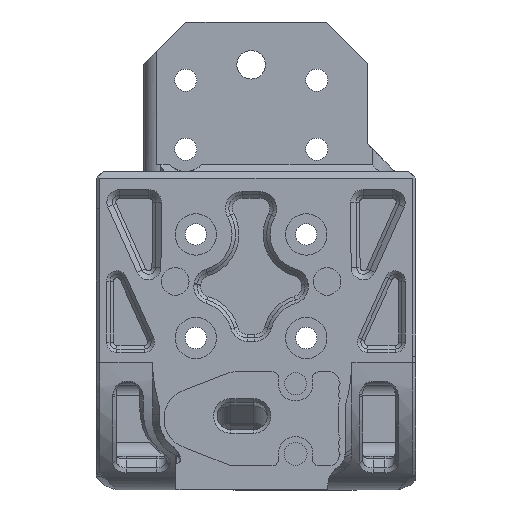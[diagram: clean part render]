
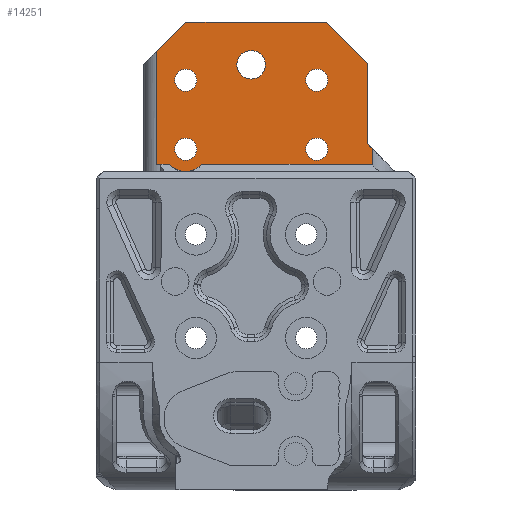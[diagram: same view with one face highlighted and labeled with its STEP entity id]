
A CAD part, front view. The second image highlights one B-rep face of the part: STEP entity #14251.
In plain terms, the highlighted planar face has unit normal (0, -1, 0).
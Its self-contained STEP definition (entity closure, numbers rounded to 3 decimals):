
#41=FACE_BOUND('',#2235,.T.);
#42=FACE_BOUND('',#2236,.T.);
#43=FACE_BOUND('',#2237,.T.);
#44=FACE_BOUND('',#2238,.T.);
#45=FACE_BOUND('',#2239,.T.);
#742=CIRCLE('',#14962,2.075);
#744=CIRCLE('',#14965,1.6);
#746=CIRCLE('',#14968,1.6);
#748=CIRCLE('',#14971,1.6);
#750=CIRCLE('',#14974,1.6);
#752=CIRCLE('',#14984,3.25);
#1416=FACE_OUTER_BOUND('',#2234,.T.);
#2234=EDGE_LOOP('',(#10199,#10200,#10201,#10202,#10203,#10204,#10205,#10206,
#10207,#10208));
#2235=EDGE_LOOP('',(#10209));
#2236=EDGE_LOOP('',(#10210));
#2237=EDGE_LOOP('',(#10211));
#2238=EDGE_LOOP('',(#10212));
#2239=EDGE_LOOP('',(#10213));
#3034=LINE('',#20569,#4466);
#3038=LINE('',#20579,#4470);
#3041=LINE('',#20585,#4473);
#3044=LINE('',#20603,#4476);
#3338=LINE('',#22027,#4770);
#3345=LINE('',#22043,#4777);
#3348=LINE('',#22049,#4780);
#3351=LINE('',#22056,#4783);
#3352=LINE('',#22057,#4784);
#4466=VECTOR('',#16412,10.);
#4470=VECTOR('',#16420,10.);
#4473=VECTOR('',#16425,10.);
#4476=VECTOR('',#16444,10.);
#4770=VECTOR('',#17088,10.);
#4777=VECTOR('',#17105,10.);
#4780=VECTOR('',#17110,10.);
#4783=VECTOR('',#17117,10.);
#4784=VECTOR('',#17118,10.);
#5917=VERTEX_POINT('',#20537);
#5919=VERTEX_POINT('',#20543);
#5921=VERTEX_POINT('',#20549);
#5923=VERTEX_POINT('',#20555);
#5925=VERTEX_POINT('',#20561);
#5927=VERTEX_POINT('',#20567);
#5928=VERTEX_POINT('',#20568);
#5932=VERTEX_POINT('',#20578);
#5934=VERTEX_POINT('',#20584);
#5936=VERTEX_POINT('',#20589);
#5938=VERTEX_POINT('',#20593);
#5941=VERTEX_POINT('',#20601);
#6234=VERTEX_POINT('',#22041);
#6236=VERTEX_POINT('',#22046);
#6238=VERTEX_POINT('',#22055);
#7317=EDGE_CURVE('',#5917,#5917,#742,.T.);
#7320=EDGE_CURVE('',#5919,#5919,#744,.T.);
#7323=EDGE_CURVE('',#5921,#5921,#746,.T.);
#7326=EDGE_CURVE('',#5923,#5923,#748,.T.);
#7329=EDGE_CURVE('',#5925,#5925,#750,.T.);
#7332=EDGE_CURVE('',#5927,#5928,#3034,.T.);
#7337=EDGE_CURVE('',#5932,#5927,#3038,.T.);
#7340=EDGE_CURVE('',#5934,#5932,#3041,.T.);
#7345=EDGE_CURVE('',#5936,#5938,#752,.F.);
#7349=EDGE_CURVE('',#5928,#5941,#3044,.T.);
#7756=EDGE_CURVE('',#5936,#5941,#3338,.T.);
#7764=EDGE_CURVE('',#6234,#5938,#3345,.T.);
#7767=EDGE_CURVE('',#6236,#5934,#3348,.T.);
#7770=EDGE_CURVE('',#6234,#6238,#3351,.T.);
#7771=EDGE_CURVE('',#6238,#6236,#3352,.T.);
#10199=ORIENTED_EDGE('',*,*,#7349,.T.);
#10200=ORIENTED_EDGE('',*,*,#7756,.F.);
#10201=ORIENTED_EDGE('',*,*,#7345,.T.);
#10202=ORIENTED_EDGE('',*,*,#7764,.F.);
#10203=ORIENTED_EDGE('',*,*,#7770,.T.);
#10204=ORIENTED_EDGE('',*,*,#7771,.T.);
#10205=ORIENTED_EDGE('',*,*,#7767,.T.);
#10206=ORIENTED_EDGE('',*,*,#7340,.T.);
#10207=ORIENTED_EDGE('',*,*,#7337,.T.);
#10208=ORIENTED_EDGE('',*,*,#7332,.T.);
#10209=ORIENTED_EDGE('',*,*,#7329,.T.);
#10210=ORIENTED_EDGE('',*,*,#7326,.T.);
#10211=ORIENTED_EDGE('',*,*,#7323,.T.);
#10212=ORIENTED_EDGE('',*,*,#7320,.T.);
#10213=ORIENTED_EDGE('',*,*,#7317,.T.);
#13771=PLANE('',#15170);
#14251=ADVANCED_FACE('',(#1416,#41,#42,#43,#44,#45),#13771,.T.);
#14962=AXIS2_PLACEMENT_3D('',#20538,#16377,#16378);
#14965=AXIS2_PLACEMENT_3D('',#20544,#16384,#16385);
#14968=AXIS2_PLACEMENT_3D('',#20550,#16391,#16392);
#14971=AXIS2_PLACEMENT_3D('',#20556,#16398,#16399);
#14974=AXIS2_PLACEMENT_3D('',#20562,#16405,#16406);
#14984=AXIS2_PLACEMENT_3D('',#20595,#16435,#16436);
#15170=AXIS2_PLACEMENT_3D('',#22054,#17115,#17116);
#16377=DIRECTION('center_axis',(0.,1.,0.));
#16378=DIRECTION('ref_axis',(-1.,0.,0.));
#16384=DIRECTION('center_axis',(0.,1.,0.));
#16385=DIRECTION('ref_axis',(-1.,0.,0.));
#16391=DIRECTION('center_axis',(0.,1.,0.));
#16392=DIRECTION('ref_axis',(-1.,0.,0.));
#16398=DIRECTION('center_axis',(0.,1.,0.));
#16399=DIRECTION('ref_axis',(-1.,0.,0.));
#16405=DIRECTION('center_axis',(0.,1.,0.));
#16406=DIRECTION('ref_axis',(-1.,0.,0.));
#16412=DIRECTION('',(-0.707,0.,-0.707));
#16420=DIRECTION('',(-1.,0.,0.));
#16425=DIRECTION('',(-0.707,0.,0.707));
#16435=DIRECTION('center_axis',(0.,1.,0.));
#16436=DIRECTION('ref_axis',(1.,0.,0.));
#16444=DIRECTION('',(0.,0.,-1.));
#17088=DIRECTION('',(-1.,0.,0.));
#17105=DIRECTION('',(-1.,0.,0.));
#17110=DIRECTION('',(0.,0.,1.));
#17115=DIRECTION('center_axis',(0.,-1.,0.));
#17116=DIRECTION('ref_axis',(1.,0.,0.));
#17117=DIRECTION('',(0.,0.,1.));
#17118=DIRECTION('',(-0.707,0.,0.707));
#20537=CARTESIAN_POINT('',(2.075,58.75,-8.05));
#20538=CARTESIAN_POINT('Origin',(0.,58.75,-8.05));
#20543=CARTESIAN_POINT('',(-7.9,58.75,-10.275));
#20544=CARTESIAN_POINT('Origin',(-9.5,58.75,-10.275));
#20549=CARTESIAN_POINT('',(-7.9,58.75,-20.275));
#20550=CARTESIAN_POINT('Origin',(-9.5,58.75,-20.275));
#20555=CARTESIAN_POINT('',(11.1,58.75,-10.275));
#20556=CARTESIAN_POINT('Origin',(9.5,58.75,-10.275));
#20561=CARTESIAN_POINT('',(11.1,58.75,-20.275));
#20562=CARTESIAN_POINT('Origin',(9.5,58.75,-20.275));
#20567=CARTESIAN_POINT('',(-9.445,58.75,-1.85));
#20568=CARTESIAN_POINT('',(-13.676,58.75,-6.081));
#20569=CARTESIAN_POINT('',(-19.308,58.75,-11.713));
#20578=CARTESIAN_POINT('',(10.85,58.75,-1.85));
#20579=CARTESIAN_POINT('',(-7.371,58.75,-1.85));
#20584=CARTESIAN_POINT('',(16.85,58.75,-7.85));
#20585=CARTESIAN_POINT('',(12.639,58.75,-3.639));
#20589=CARTESIAN_POINT('',(-11.869,58.75,-22.5));
#20593=CARTESIAN_POINT('',(-7.131,58.75,-22.5));
#20595=CARTESIAN_POINT('Origin',(-9.5,58.75,-20.275));
#20601=CARTESIAN_POINT('',(-13.676,58.75,-22.5));
#20603=CARTESIAN_POINT('',(-13.676,58.75,-23.408));
#22027=CARTESIAN_POINT('',(-7.698,58.75,-22.5));
#22041=CARTESIAN_POINT('',(17.517,58.75,-22.5));
#22043=CARTESIAN_POINT('',(-7.698,58.75,-22.5));
#22046=CARTESIAN_POINT('',(16.85,58.75,-19.5));
#22049=CARTESIAN_POINT('',(16.85,58.75,-29.3));
#22054=CARTESIAN_POINT('Origin',(-15.445,58.75,-29.3));
#22055=CARTESIAN_POINT('',(17.517,58.75,-20.167));
#22056=CARTESIAN_POINT('',(17.517,58.75,-21.622));
#22057=CARTESIAN_POINT('',(12.226,58.75,-14.876));
